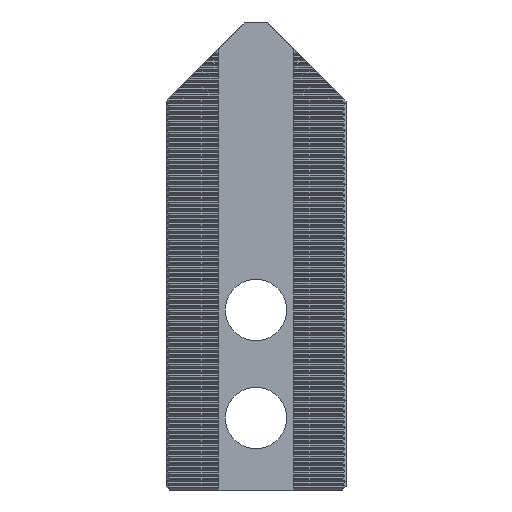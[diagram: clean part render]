
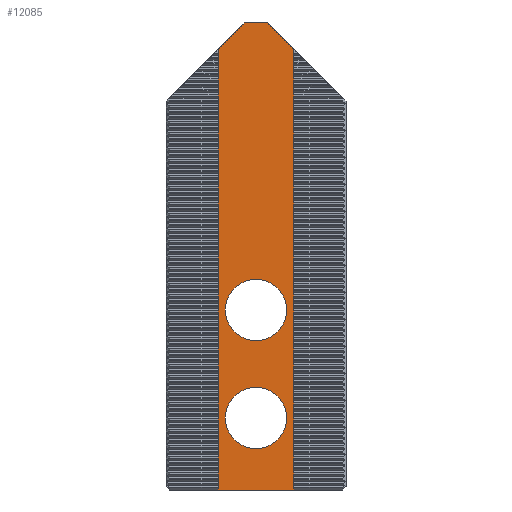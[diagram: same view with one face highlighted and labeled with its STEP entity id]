
A CAD part, front view. The second image highlights one B-rep face of the part: STEP entity #12085.
In plain terms, the highlighted planar face has unit normal (0, -1, 0).
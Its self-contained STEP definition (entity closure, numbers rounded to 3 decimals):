
#21=FACE_BOUND('',#1352,.T.);
#22=FACE_BOUND('',#1353,.T.);
#33=CIRCLE('',#12781,8.5);
#34=CIRCLE('',#12782,8.5);
#685=FACE_OUTER_BOUND('',#1351,.T.);
#1351=EDGE_LOOP('',(#10635,#10636,#10637,#10638,#10639,#10640));
#1352=EDGE_LOOP('',(#10641));
#1353=EDGE_LOOP('',(#10642));
#1385=LINE('',#15854,#3055);
#1435=LINE('',#15955,#3105);
#1506=LINE('',#16097,#3176);
#2804=LINE('',#18627,#4474);
#3024=LINE('',#19147,#4694);
#3025=LINE('',#19148,#4695);
#3055=VECTOR('',#12818,10.);
#3105=VECTOR('',#12870,10.);
#3176=VECTOR('',#13001,10.);
#4474=VECTOR('',#14949,10.);
#4694=VECTOR('',#15765,10.);
#4695=VECTOR('',#15766,10.);
#4725=VERTEX_POINT('',#15851);
#4726=VERTEX_POINT('',#15853);
#4775=VERTEX_POINT('',#15952);
#4776=VERTEX_POINT('',#15954);
#4817=VERTEX_POINT('',#16096);
#5724=VERTEX_POINT('',#18625);
#5727=VERTEX_POINT('',#19149);
#5728=VERTEX_POINT('',#19151);
#5747=EDGE_CURVE('',#4726,#4725,#1385,.T.);
#5797=EDGE_CURVE('',#4776,#4775,#1435,.T.);
#5868=EDGE_CURVE('',#4776,#4817,#1506,.T.);
#7174=EDGE_CURVE('',#4725,#5724,#2804,.T.);
#7394=EDGE_CURVE('',#4817,#5724,#3024,.T.);
#7395=EDGE_CURVE('',#4726,#4775,#3025,.T.);
#7396=EDGE_CURVE('',#5727,#5727,#33,.T.);
#7397=EDGE_CURVE('',#5728,#5728,#34,.T.);
#10635=ORIENTED_EDGE('',*,*,#5747,.T.);
#10636=ORIENTED_EDGE('',*,*,#7174,.T.);
#10637=ORIENTED_EDGE('',*,*,#7394,.F.);
#10638=ORIENTED_EDGE('',*,*,#5868,.F.);
#10639=ORIENTED_EDGE('',*,*,#5797,.T.);
#10640=ORIENTED_EDGE('',*,*,#7395,.F.);
#10641=ORIENTED_EDGE('',*,*,#7396,.F.);
#10642=ORIENTED_EDGE('',*,*,#7397,.F.);
#11423=PLANE('',#12780);
#12085=ADVANCED_FACE('',(#685,#21,#22),#11423,.F.);
#12780=AXIS2_PLACEMENT_3D('',#19146,#15763,#15764);
#12781=AXIS2_PLACEMENT_3D('',#19150,#15767,#15768);
#12782=AXIS2_PLACEMENT_3D('',#19152,#15769,#15770);
#12818=DIRECTION('',(-0.707,0.,-0.707));
#12870=DIRECTION('',(-0.707,0.,0.707));
#13001=DIRECTION('',(0.,0.,-1.));
#14949=DIRECTION('',(0.,0.,-1.));
#15763=DIRECTION('center_axis',(0.,1.,0.));
#15764=DIRECTION('ref_axis',(1.,0.,0.));
#15765=DIRECTION('',(-1.,0.,0.));
#15766=DIRECTION('',(1.,0.,0.));
#15767=DIRECTION('center_axis',(0.,-1.,0.));
#15768=DIRECTION('ref_axis',(1.,0.,0.));
#15769=DIRECTION('center_axis',(0.,-1.,0.));
#15770=DIRECTION('ref_axis',(1.,0.,0.));
#15851=CARTESIAN_POINT('',(-10.5,4.5,57.5));
#15853=CARTESIAN_POINT('',(-3.,4.5,65.));
#15854=CARTESIAN_POINT('',(-4.875,4.5,63.125));
#15952=CARTESIAN_POINT('',(3.,4.5,65.));
#15954=CARTESIAN_POINT('',(10.5,4.5,57.5));
#15955=CARTESIAN_POINT('',(10.625,4.5,57.375));
#16096=CARTESIAN_POINT('',(10.5,4.5,-65.));
#16097=CARTESIAN_POINT('',(10.5,4.5,65.));
#18625=CARTESIAN_POINT('',(-10.5,4.5,-65.));
#18627=CARTESIAN_POINT('',(-10.5,4.5,65.));
#19146=CARTESIAN_POINT('Origin',(-10.5,4.5,65.));
#19147=CARTESIAN_POINT('',(7.25,4.5,-65.));
#19148=CARTESIAN_POINT('',(-17.75,4.5,65.));
#19149=CARTESIAN_POINT('',(-8.5,4.5,-15.));
#19150=CARTESIAN_POINT('Origin',(0.,4.5,-15.));
#19151=CARTESIAN_POINT('',(-8.5,4.5,-45.));
#19152=CARTESIAN_POINT('Origin',(0.,4.5,-45.));
